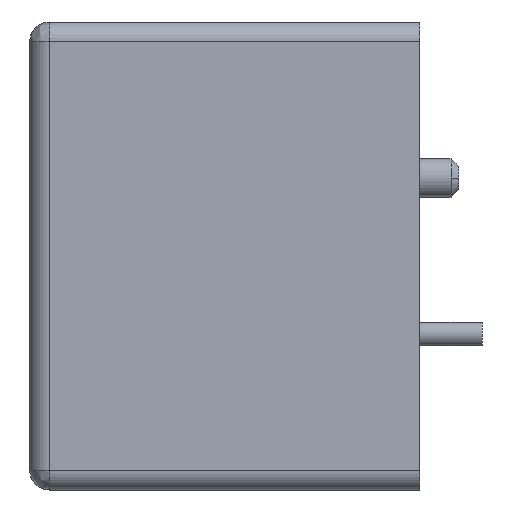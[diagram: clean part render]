
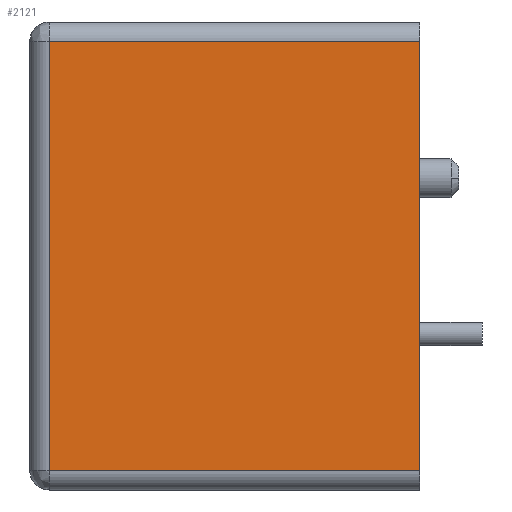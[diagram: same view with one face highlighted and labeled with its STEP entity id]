
A CAD part, left-side view. The second image highlights one B-rep face of the part: STEP entity #2121.
In plain terms, the highlighted planar face has unit normal (-1, 0, 0).
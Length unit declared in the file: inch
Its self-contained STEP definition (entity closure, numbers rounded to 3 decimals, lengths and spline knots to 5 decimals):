
#128 = VECTOR ( 'NONE', #20162, 39.37008 ) ;
#1138 = ORIENTED_EDGE ( 'NONE', *, *, #17226, .F. ) ;
#1206 = EDGE_CURVE ( 'NONE', #14375, #3676, #19828, .T. ) ;
#1543 = CARTESIAN_POINT ( 'NONE',  ( 0., 0., -0.23 ) ) ;
#1736 = VERTEX_POINT ( 'NONE', #1543 ) ;
#2121 = ADVANCED_FACE ( 'NONE', ( #10308 ), #2357, .F. ) ;
#2357 = PLANE ( 'NONE',  #12248 ) ;
#2405 = DIRECTION ( 'NONE',  ( 0., 1., 0. ) ) ;
#3260 = ORIENTED_EDGE ( 'NONE', *, *, #5331, .F. ) ;
#3609 = VECTOR ( 'NONE', #7520, 39.37008 ) ;
#3676 = VERTEX_POINT ( 'NONE', #22338 ) ;
#3992 = CARTESIAN_POINT ( 'NONE',  ( 0., 0.19, -0.24 ) ) ;
#4573 = CARTESIAN_POINT ( 'NONE',  ( 0., 0.19, -0.01 ) ) ;
#5331 = EDGE_CURVE ( 'NONE', #13254, #14375, #15737, .T. ) ;
#5442 = VECTOR ( 'NONE', #2405, 39.37008 ) ;
#6065 = LINE ( 'NONE', #16547, #5442 ) ;
#7520 = DIRECTION ( 'NONE',  ( 0., -1., 0. ) ) ;
#7664 = CARTESIAN_POINT ( 'NONE',  ( 0., 0., -0.01 ) ) ;
#7982 = EDGE_LOOP ( 'NONE', ( #18691, #3260, #1138, #20964 ) ) ;
#8623 = VECTOR ( 'NONE', #17896, 39.37008 ) ;
#10308 = FACE_OUTER_BOUND ( 'NONE', #7982, .T. ) ;
#10589 = DIRECTION ( 'NONE',  ( 0., 0., -1. ) ) ;
#12248 = AXIS2_PLACEMENT_3D ( 'NONE', #14537, #22691, #10589 ) ;
#13254 = VERTEX_POINT ( 'NONE', #20802 ) ;
#13383 = LINE ( 'NONE', #22129, #8623 ) ;
#14375 = VERTEX_POINT ( 'NONE', #4573 ) ;
#14537 = CARTESIAN_POINT ( 'NONE',  ( 0., 0., -0.24 ) ) ;
#15737 = LINE ( 'NONE', #3992, #128 ) ;
#16547 = CARTESIAN_POINT ( 'NONE',  ( 0., 0., -0.23 ) ) ;
#17039 = EDGE_CURVE ( 'NONE', #3676, #1736, #13383, .T. ) ;
#17226 = EDGE_CURVE ( 'NONE', #1736, #13254, #6065, .T. ) ;
#17896 = DIRECTION ( 'NONE',  ( 0., 0., -1. ) ) ;
#18691 = ORIENTED_EDGE ( 'NONE', *, *, #1206, .F. ) ;
#19828 = LINE ( 'NONE', #7664, #3609 ) ;
#20162 = DIRECTION ( 'NONE',  ( 0., 0., 1. ) ) ;
#20802 = CARTESIAN_POINT ( 'NONE',  ( 0., 0.19, -0.23 ) ) ;
#20964 = ORIENTED_EDGE ( 'NONE', *, *, #17039, .F. ) ;
#22129 = CARTESIAN_POINT ( 'NONE',  ( 0., 0., -0.24 ) ) ;
#22338 = CARTESIAN_POINT ( 'NONE',  ( 0., 0., -0.01 ) ) ;
#22691 = DIRECTION ( 'NONE',  ( 1., 0., 0. ) ) ;
